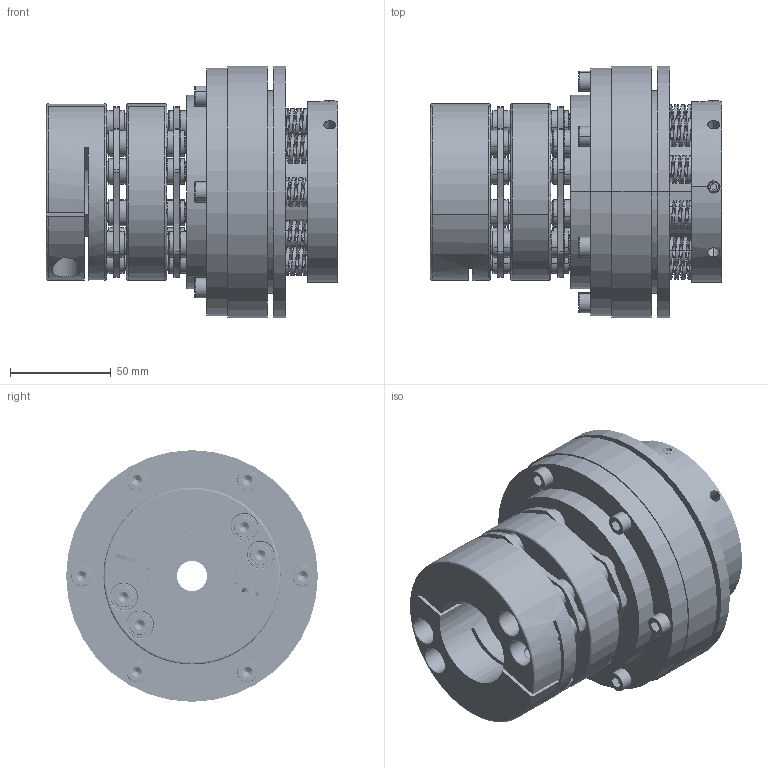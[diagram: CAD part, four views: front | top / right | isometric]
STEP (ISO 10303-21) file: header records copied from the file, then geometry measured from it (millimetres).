
FILE_DESCRIPTION (( 'STEP AP214' ), '1' );
FILE_NAME ('STL150-H.STEP', '2020-03-01T04:09:07', ( '' ), ( '' ), 'SwSTEP 2.0', 'SolidWorks 2015', '' );
FILE_SCHEMA (( 'AUTOMOTIVE_DESIGN' ));
Length unit declared in the file: millimetre
Products named in the file (1): STL150-H
Bounding box: 144.9 x 125 x 125 mm (x, y, z)
Volume: 836340.9 mm3; surface area: 176603.5 mm2
Topology: 1 solids, 81 shells, 1914 faces, 4874 edges, 3101 vertices
Faces by surface type: cylinder 775, plane 517, bspline 410, cone 176, torus 36
Entity records: 131841 total; most frequent: CARTESIAN_POINT 66074, ORIENTED_EDGE 9632, DIRECTION 9204, EDGE_CURVE 4816, AXIS2_PLACEMENT_3D 3790, VERTEX_POINT 3101, CIRCLE 2285, EDGE_LOOP 2175
